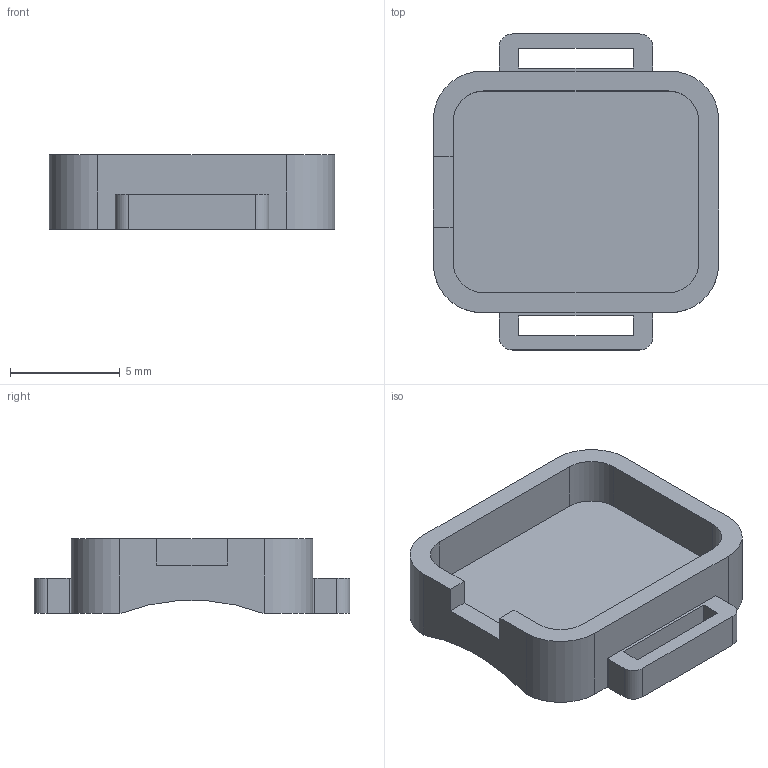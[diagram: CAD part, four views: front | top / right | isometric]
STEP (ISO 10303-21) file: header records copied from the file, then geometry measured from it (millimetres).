
FILE_DESCRIPTION(('Open CASCADE Model'),'2;1');
FILE_NAME('Open CASCADE Shape Model','2026-10-04T21:33:04',('Author'),( 'Open CASCADE'),'Open CASCADE STEP processor 7.9','Open CASCADE 7.9' ,'Unknown');
FILE_SCHEMA(('AUTOMOTIVE_DESIGN { 1 0 10303 214 1 1 1 1 }'));
Length unit declared in the file: millimetre
Products named in the file (1): Open CASCADE STEP translator 7.9 1
Bounding box: 13 x 14.4 x 3.4 mm (x, y, z)
Volume: 234.4 mm3; surface area: 580.3 mm2
Topology: 1 solids, 1 shells, 48 faces, 138 edges, 92 vertices
Faces by surface type: plane 31, cylinder 17
Entity records: 3394 total; most frequent: CARTESIAN_POINT 693, DIRECTION 488, LINE 304, VECTOR 304, ORIENTED_EDGE 276, PCURVE 276, DEFINITIONAL_REPRESENTATION 276, EDGE_CURVE 138
